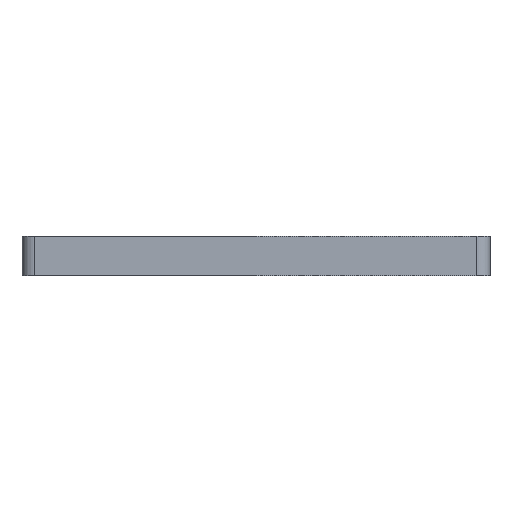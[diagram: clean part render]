
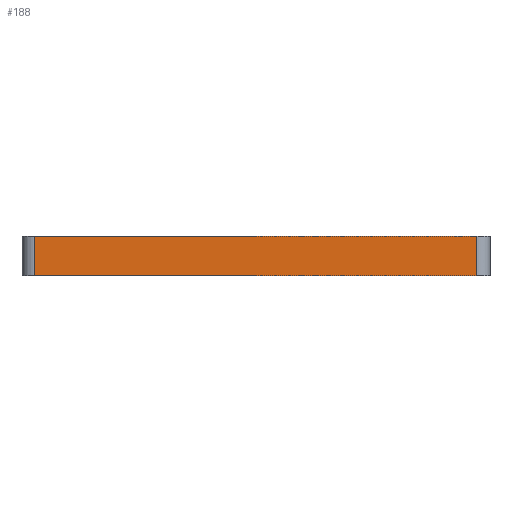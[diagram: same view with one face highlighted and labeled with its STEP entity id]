
A CAD part, left-side view. The second image highlights one B-rep face of the part: STEP entity #188.
In plain terms, the highlighted planar face has unit normal (-1, 0, 0).
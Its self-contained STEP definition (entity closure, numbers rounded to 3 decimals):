
#188 = ADVANCED_FACE( '', ( #448 ), #449, .T. );
#448 = FACE_OUTER_BOUND( '', #707, .T. );
#449 = PLANE( '', #708 );
#707 = EDGE_LOOP( '', ( #1131, #1132, #1133, #1134 ) );
#708 = AXIS2_PLACEMENT_3D( '', #1135, #1136, #1137 );
#1131 = ORIENTED_EDGE( '', *, *, #1281, .F. );
#1132 = ORIENTED_EDGE( '', *, *, #1299, .T. );
#1133 = ORIENTED_EDGE( '', *, *, #1246, .T. );
#1134 = ORIENTED_EDGE( '', *, *, #1286, .T. );
#1135 = CARTESIAN_POINT( '', ( -57.15, 57.15, -9.525 ) );
#1136 = DIRECTION( '', ( -1., 0., 0. ) );
#1137 = DIRECTION( '', ( 0., -1., 0. ) );
#1246 = EDGE_CURVE( '', #1467, #1465, #1468, .T. );
#1281 = EDGE_CURVE( '', #1520, #1522, #1523, .T. );
#1286 = EDGE_CURVE( '', #1465, #1522, #1528, .T. );
#1299 = EDGE_CURVE( '', #1520, #1467, #1544, .F. );
#1465 = VERTEX_POINT( '', #1729 );
#1467 = VERTEX_POINT( '', #1731 );
#1468 = LINE( '', #1732, #1733 );
#1520 = VERTEX_POINT( '', #1792 );
#1522 = VERTEX_POINT( '', #1794 );
#1523 = LINE( '', #1795, #1796 );
#1528 = LINE( '', #1801, #1802 );
#1544 = LINE( '', #1819, #1820 );
#1729 = CARTESIAN_POINT( '', ( -57.15, -53.975, -9.525 ) );
#1731 = CARTESIAN_POINT( '', ( -57.15, 53.975, -9.525 ) );
#1732 = CARTESIAN_POINT( '', ( -57.15, 57.15, -9.525 ) );
#1733 = VECTOR( '', #2003, 1000. );
#1792 = CARTESIAN_POINT( '', ( -57.15, 53.975, 0. ) );
#1794 = CARTESIAN_POINT( '', ( -57.15, -53.975, 0. ) );
#1795 = CARTESIAN_POINT( '', ( -57.15, 57.15, 0. ) );
#1796 = VECTOR( '', #2065, 1000. );
#1801 = CARTESIAN_POINT( '', ( -57.15, -53.975, -9.525 ) );
#1802 = VECTOR( '', #2075, 1000. );
#1819 = CARTESIAN_POINT( '', ( -57.15, 53.975, -9.525 ) );
#1820 = VECTOR( '', #2086, 1000. );
#2003 = DIRECTION( '', ( 0., -1., 0. ) );
#2065 = DIRECTION( '', ( 0., -1., 0. ) );
#2075 = DIRECTION( '', ( 0., 0., 1. ) );
#2086 = DIRECTION( '', ( 0., 0., 1. ) );
